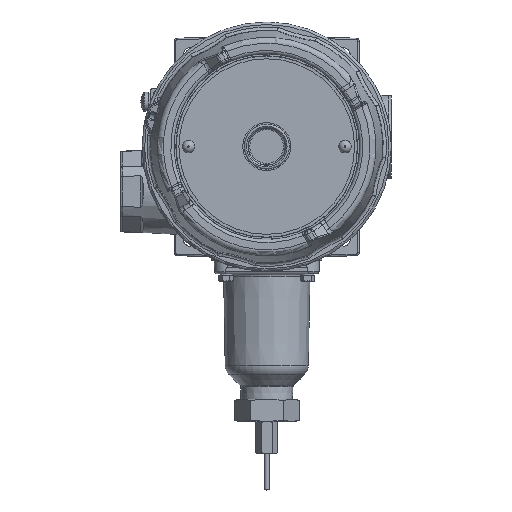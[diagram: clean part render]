
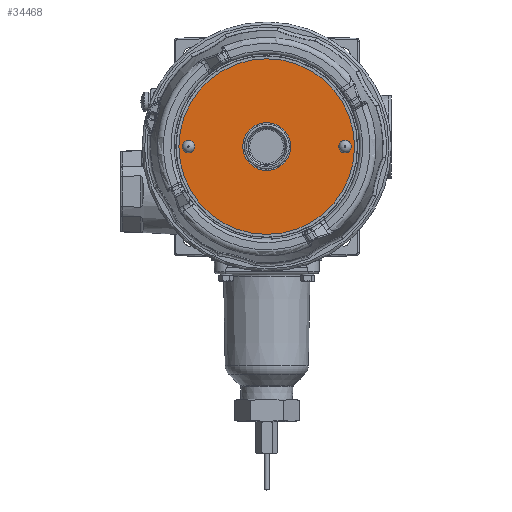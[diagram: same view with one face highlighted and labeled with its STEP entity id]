
A CAD part, top view. The second image highlights one B-rep face of the part: STEP entity #34468.
In plain terms, the highlighted planar face has unit normal (0, 0, 1).
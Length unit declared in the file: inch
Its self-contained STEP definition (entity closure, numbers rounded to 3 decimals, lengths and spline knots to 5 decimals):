
#2152 = CARTESIAN_POINT ( 'NONE',  ( 1.7185, 0., 2.931 ) ) ;
#2344 = PLANE ( 'NONE',  #33249 ) ;
#3499 = CARTESIAN_POINT ( 'NONE',  ( -0.00025, 0., 2.931 ) ) ;
#4927 = CIRCLE ( 'NONE', #37154, 0.078 ) ;
#6689 = EDGE_LOOP ( 'NONE', ( #17739 ) ) ;
#9583 = DIRECTION ( 'NONE',  ( 1., 0., 0. ) ) ;
#9812 = DIRECTION ( 'NONE',  ( 1., 0., 0. ) ) ;
#9864 = DIRECTION ( 'NONE',  ( 0., 0., 1. ) ) ;
#10331 = EDGE_LOOP ( 'NONE', ( #24433 ) ) ;
#11046 = DIRECTION ( 'NONE',  ( 1., 0., 0. ) ) ;
#11181 = AXIS2_PLACEMENT_3D ( 'NONE', #3499, #18233, #9583 ) ;
#11643 = FACE_BOUND ( 'NONE', #6689, .T. ) ;
#11657 = VERTEX_POINT ( 'NONE', #39299 ) ;
#12534 = ORIENTED_EDGE ( 'NONE', *, *, #28304, .T. ) ;
#13283 = VERTEX_POINT ( 'NONE', #34874 ) ;
#15507 = EDGE_LOOP ( 'NONE', ( #12534 ) ) ;
#15829 = EDGE_CURVE ( 'NONE', #13283, #13283, #37295, .T. ) ;
#17688 = FACE_BOUND ( 'NONE', #22113, .T. ) ;
#17739 = ORIENTED_EDGE ( 'NONE', *, *, #15829, .F. ) ;
#18233 = DIRECTION ( 'NONE',  ( 0., 0., 1. ) ) ;
#22058 = DIRECTION ( 'NONE',  ( 1., 0., 0. ) ) ;
#22113 = EDGE_LOOP ( 'NONE', ( #23753 ) ) ;
#22489 = DIRECTION ( 'NONE',  ( 0., 0., 1. ) ) ;
#23123 = FACE_OUTER_BOUND ( 'NONE', #15507, .T. ) ;
#23377 = CIRCLE ( 'NONE', #11181, 1.71875 ) ;
#23753 = ORIENTED_EDGE ( 'NONE', *, *, #34711, .F. ) ;
#23916 = CARTESIAN_POINT ( 'NONE',  ( -0.00025, 0., 2.931 ) ) ;
#24433 = ORIENTED_EDGE ( 'NONE', *, *, #35730, .F. ) ;
#24522 = VERTEX_POINT ( 'NONE', #27150 ) ;
#24955 = CIRCLE ( 'NONE', #30133, 0.078 ) ;
#27150 = CARTESIAN_POINT ( 'NONE',  ( 1.609, 0., 2.931 ) ) ;
#28188 = DIRECTION ( 'NONE',  ( 1., 0., 0. ) ) ;
#28304 = EDGE_CURVE ( 'NONE', #38893, #38893, #23377, .T. ) ;
#28535 = CARTESIAN_POINT ( 'NONE',  ( -1.5315, 0., 2.931 ) ) ;
#29985 = FACE_BOUND ( 'NONE', #10331, .T. ) ;
#30133 = AXIS2_PLACEMENT_3D ( 'NONE', #34257, #9864, #28188 ) ;
#32418 = DIRECTION ( 'NONE',  ( 0., 0., 1. ) ) ;
#33249 = AXIS2_PLACEMENT_3D ( 'NONE', #23916, #32418, #11046 ) ;
#33978 = DIRECTION ( 'NONE',  ( 0., 0., 1. ) ) ;
#34257 = CARTESIAN_POINT ( 'NONE',  ( 1.531, 0., 2.931 ) ) ;
#34468 = ADVANCED_FACE ( 'NONE', ( #11643, #23123, #17688, #29985 ), #2344, .T. ) ;
#34592 = CARTESIAN_POINT ( 'NONE',  ( -0.00025, 0., 2.931 ) ) ;
#34711 = EDGE_CURVE ( 'NONE', #11657, #11657, #4927, .T. ) ;
#34874 = CARTESIAN_POINT ( 'NONE',  ( 0.4685, 0., 2.931 ) ) ;
#35730 = EDGE_CURVE ( 'NONE', #24522, #24522, #24955, .T. ) ;
#37154 = AXIS2_PLACEMENT_3D ( 'NONE', #28535, #22489, #9812 ) ;
#37295 = CIRCLE ( 'NONE', #38567, 0.46875 ) ;
#38567 = AXIS2_PLACEMENT_3D ( 'NONE', #34592, #33978, #22058 ) ;
#38893 = VERTEX_POINT ( 'NONE', #2152 ) ;
#39299 = CARTESIAN_POINT ( 'NONE',  ( -1.4535, 0., 2.931 ) ) ;
